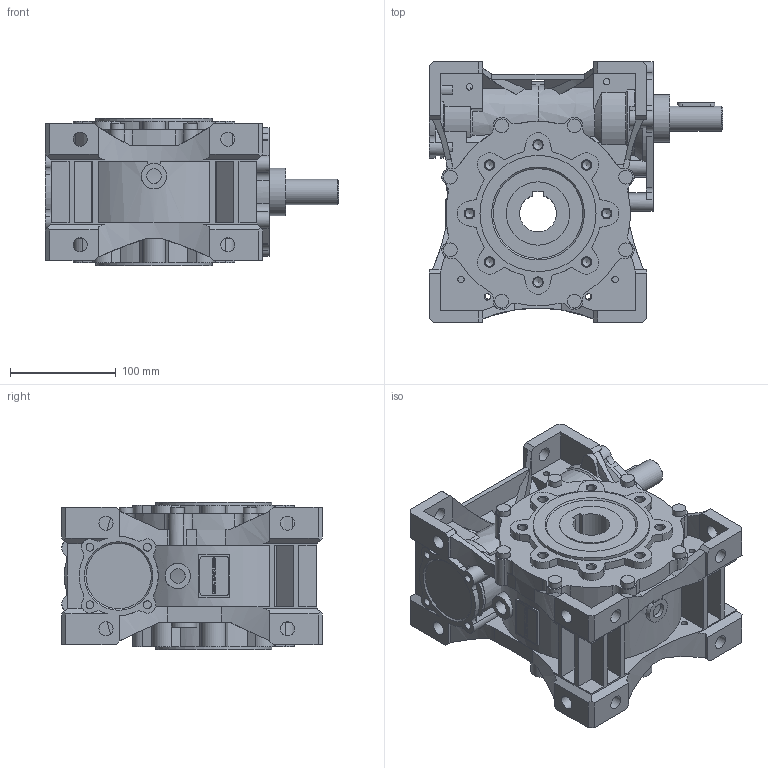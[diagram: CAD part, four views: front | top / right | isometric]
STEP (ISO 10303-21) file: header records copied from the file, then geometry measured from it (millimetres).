
FILE_DESCRIPTION(/* description */ ('STEP AP203'),/* implementation_level */ '2;1');
FILE_NAME(/* name */ 'NRVP_090_25_24x50_35_NO_NO_-_-_NO_-_-_-_NO',/* time_stamp */ '2025-06-05T02:27:39+02:00',/* author */ ('License CC BY-ND 4.0'),/* organization */ ('CADENAS'),/* preprocessor_version */ 'ST-DEVELOPER v19.3',/* originating_system */ 'PARTsolutions',/* authorisation */ ' ');
FILE_SCHEMA (('CONFIG_CONTROL_DESIGN'));
Length unit declared in the file: millimetre
Products named in the file (5): NRVP 090 25 24x50 35 NO NO - - NO - - - NO; W.090.01.M; 090-35 (140); 090-24-175 (24)-p; 90-45
Assembly tree (4 placements, depth 2):
  NRVP 090 25 24x50 35 NO NO - - NO - - - NO
    W.090.01.M
    090-35 (140)
    090-24-175 (24)-p
    90-45
Bounding box: 278 x 247 x 140 mm (x, y, z)
Volume: 4295339.3 mm3; surface area: 459772.5 mm2
Topology: 4 solids, 6 shells, 1210 faces, 3344 edges, 2216 vertices
Faces by surface type: plane 612, cylinder 518, cone 78, torus 2
Full cylindrical faces by diameter (mm): 6 x12, 6.647 x1, 7.45 x12, 8.376 x16, 8.4 x1, 13 x8, 13.4 x14, 14 x4, 24 x3, 31 x1, 45 x2, 50 x1, 58 x1, 60 x1, 75 x2, 90 x1, 110 x2
Entity records: 46671 total; most frequent: CARTESIAN_POINT 7382, DIRECTION 6539, ORIENTED_EDGE 6338, EDGE_CURVE 3169, AXIS2_PLACEMENT_3D 2378, VERTEX_POINT 2183, LINE 1783, VECTOR 1783
